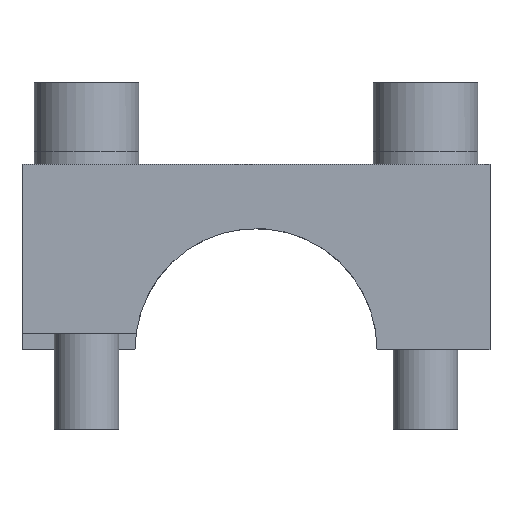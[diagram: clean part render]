
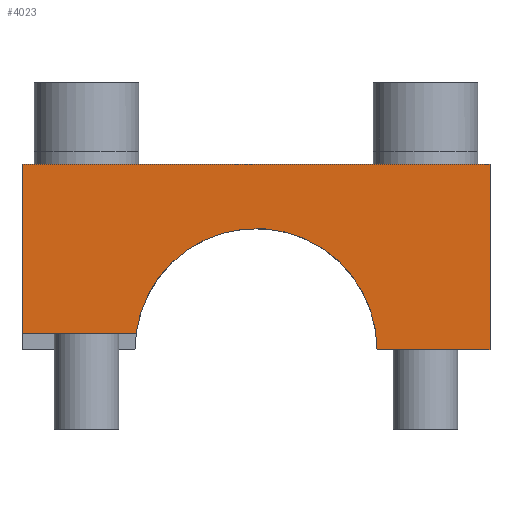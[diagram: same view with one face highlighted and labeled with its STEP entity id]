
A CAD part, left-side view. The second image highlights one B-rep face of the part: STEP entity #4023.
In plain terms, the highlighted planar face has unit normal (-1, 0, 0).
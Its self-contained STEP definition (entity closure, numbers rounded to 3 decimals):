
#3549=CARTESIAN_POINT('Vertex',(-28.,29.,23.)) ;
#3552=CARTESIAN_POINT('Line Origine',(-28.,0.,23.)) ;
#3556=CARTESIAN_POINT('Vertex',(-28.,-29.,23.)) ;
#3969=CARTESIAN_POINT('Vertex',(-28.,29.,2.)) ;
#3972=CARTESIAN_POINT('Line Origine',(-28.,29.,12.5)) ;
#3984=CARTESIAN_POINT('Axis2P3D Location',(-28.,0.,0.)) ;
#3989=CARTESIAN_POINT('Line Origine',(-28.,21.933,2.)) ;
#3993=CARTESIAN_POINT('Vertex',(-28.,14.866,2.)) ;
#3996=CARTESIAN_POINT('Axis2P3D Location',(-28.,0.,0.)) ;
#4000=CARTESIAN_POINT('Vertex',(-28.,-15.,0.)) ;
#4003=CARTESIAN_POINT('Line Origine',(-28.,-22.,0.)) ;
#4007=CARTESIAN_POINT('Vertex',(-28.,-29.,0.)) ;
#4010=CARTESIAN_POINT('Line Origine',(-28.,-29.,11.5)) ;
#3553=DIRECTION('Vector Direction',(0.,-1.,0.)) ;
#3973=DIRECTION('Vector Direction',(0.,0.,1.)) ;
#3985=DIRECTION('Axis2P3D Direction',(-1.,0.,0.)) ;
#3986=DIRECTION('Axis2P3D XDirection',(0.,-1.,0.)) ;
#3990=DIRECTION('Vector Direction',(0.,-1.,0.)) ;
#3997=DIRECTION('Axis2P3D Direction',(-1.,0.,0.)) ;
#4004=DIRECTION('Vector Direction',(0.,1.,0.)) ;
#4011=DIRECTION('Vector Direction',(0.,0.,-1.)) ;
#3987=AXIS2_PLACEMENT_3D('Plane Axis2P3D',#3984,#3985,#3986) ;
#3998=AXIS2_PLACEMENT_3D('Circle Axis2P3D',#3996,#3997,$) ;
#4016=ORIENTED_EDGE('',*,*,#3995,.T.) ;
#4017=ORIENTED_EDGE('',*,*,#4002,.T.) ;
#4018=ORIENTED_EDGE('',*,*,#4009,.T.) ;
#4019=ORIENTED_EDGE('',*,*,#4014,.T.) ;
#4020=ORIENTED_EDGE('',*,*,#3558,.T.) ;
#4021=ORIENTED_EDGE('',*,*,#3976,.T.) ;
#3554=VECTOR('Line Direction',#3553,1.) ;
#3974=VECTOR('Line Direction',#3973,1.) ;
#3991=VECTOR('Line Direction',#3990,1.) ;
#4005=VECTOR('Line Direction',#4004,1.) ;
#4012=VECTOR('Line Direction',#4011,1.) ;
#4023=ADVANCED_FACE('EGT_205_SCHELLE_RD30_K.2',(#4022),#3988,.T.) ;
#3999=CIRCLE('generated circle',#3998,15.) ;
#3558=EDGE_CURVE('',#3557,#3550,#3555,.F.) ;
#3976=EDGE_CURVE('',#3550,#3970,#3975,.F.) ;
#3995=EDGE_CURVE('',#3970,#3994,#3992,.T.) ;
#4002=EDGE_CURVE('',#3994,#4001,#3999,.F.) ;
#4009=EDGE_CURVE('',#4001,#4008,#4006,.F.) ;
#4014=EDGE_CURVE('',#4008,#3557,#4013,.F.) ;
#4015=EDGE_LOOP('',(#4016,#4017,#4018,#4019,#4020,#4021)) ;
#4022=FACE_OUTER_BOUND('',#4015,.T.) ;
#3555=LINE('Line',#3552,#3554) ;
#3975=LINE('Line',#3972,#3974) ;
#3992=LINE('Line',#3989,#3991) ;
#4006=LINE('Line',#4003,#4005) ;
#4013=LINE('Line',#4010,#4012) ;
#3988=PLANE('',#3987) ;
#3550=VERTEX_POINT('',#3549) ;
#3557=VERTEX_POINT('',#3556) ;
#3970=VERTEX_POINT('',#3969) ;
#3994=VERTEX_POINT('',#3993) ;
#4001=VERTEX_POINT('',#4000) ;
#4008=VERTEX_POINT('',#4007) ;
